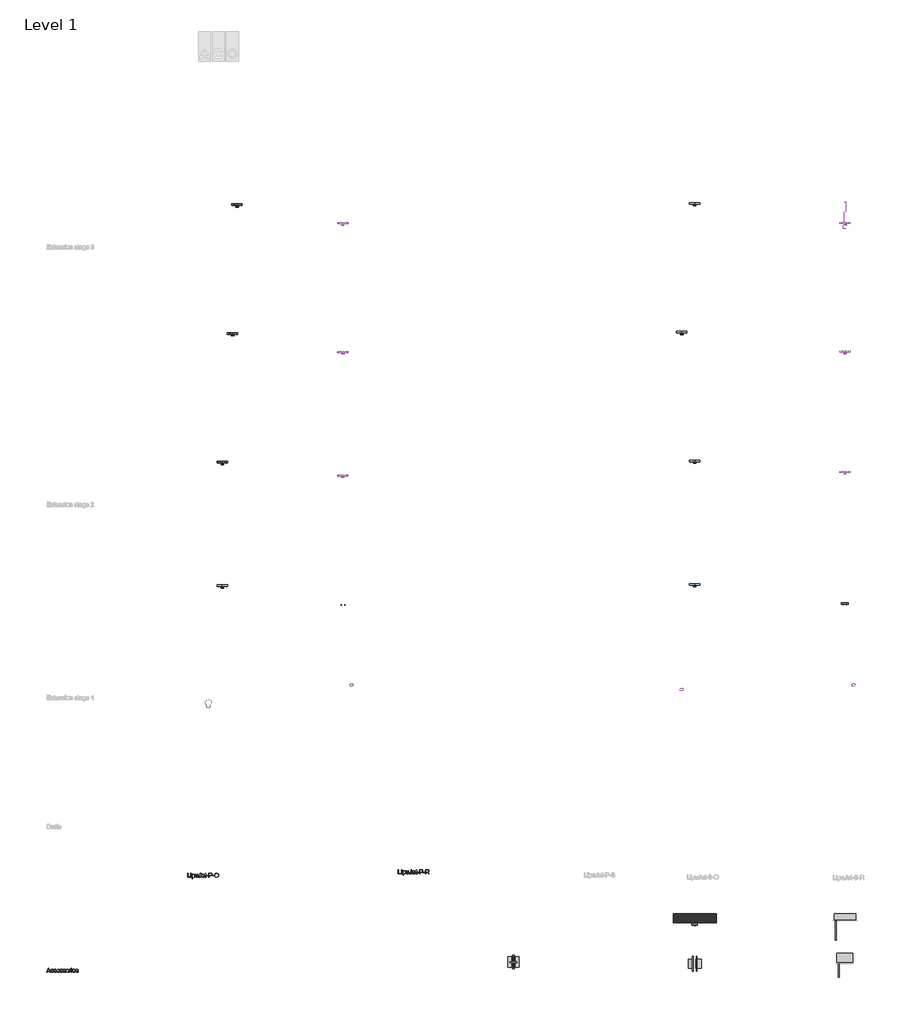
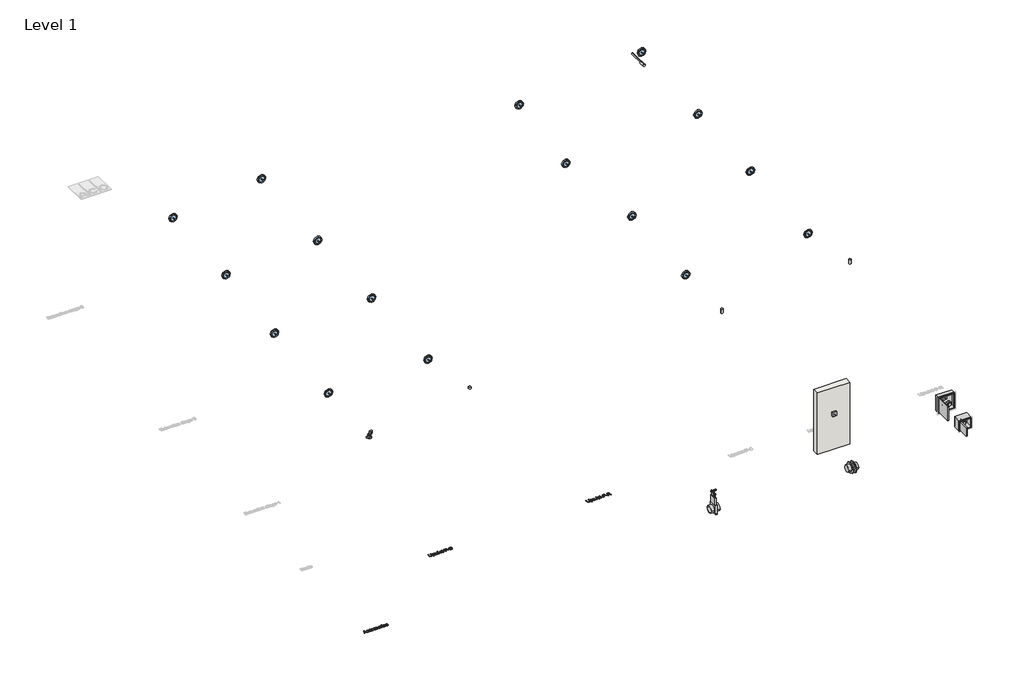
# One storey, part 1 of 3: 16 windows, 5 proxies, 5 unitary equipment elements, 2 furniture elements, 2 pipe fittings, 1 valve, 1 wall.
"""IFC4 building model written with IfcOpenShell, lengths in millimetres."""

from ifc_helpers import new_model, si_unit, origin, origin_with_axes, place, context, project, spatial, polyline, outline, extrude, transform, mapped, element, save
from components import cd_pvc_remote_control_aco_std_7b1f1c58, furniture_370x330x250_330b71c9, furniture_500x500x160_cb3627f5, std_2dac5c2e, ns2_601247f1, ns2_aebbb962, ns4_fcfb2e82, ns4_c199ca5a, std_bcf9d813, dn200_f11250b8, std_43f00bc0

model = new_model("IFC4")

# Units and contexts
model_context = context("Model", 3, world=origin())
ifc_project = project(units=[si_unit("LENGTHUNIT", "METRE", prefix="MILLI")], contexts=[model_context])

# Site, building, storey
site = spatial("IfcSite", under=ifc_project)
building = spatial("IfcBuilding", under=site)
storey = spatial("IfcBuildingStorey", under=building, Name="Level 1", Elevation=0.0)

# Proxies
placement = place(None, origin())
element("IfcBuildingElementProxy", 1, Name="100mm ACO", ObjectType="100mm ACO", at=placement, inside=storey, context=model_context, shape_type="SweptSolid", body=[
    extrude(outline(polyline([(339.2015052, -288.6092273), (276.2385422, -288.6092273), (276.2385422, -188.6092273), (289.2015052, -188.6092273), (289.2015052, -277.4981162), (339.2015052, -277.4981162), (339.2015052, -288.6092273)])), origin_with_axes(), (0.0, 0.0, 1.0), 10.0),
    extrude(outline(polyline([(365.1274311, -201.5721903), (352.1644681, -201.5721903), (352.1644681, -188.6092273), (365.1274311, -188.6092273), (365.1274311, -201.5721903)])), origin_with_axes(), (0.0, 0.0, 1.0), 10.0),
    extrude(outline(polyline([(365.1274311, -288.6092273), (352.1644681, -288.6092273), (352.1644681, -216.3870051), (365.1274311, -216.3870051), (365.1274311, -288.6092273)])), origin_with_axes(), (0.0, 0.0, 1.0), 10.0),
    extrude(outline(polyline([(396.7391209, -225.0964958), (405.1954288, -217.1754889), (416.8635422, -214.5351532), (429.1899311, -217.1248523), (438.6228015, -224.8939495), (444.6123848, -236.8224796), (446.6089126, -251.8904773), (444.3519681, -267.7795109), (437.5811348, -280.0299449), (427.5261579, -287.8532956), (415.4167829, -290.4610792), (405.0435191, -288.3343431), (396.9561348, -281.9541347), (396.6089126, -316.3870051), (383.6459496, -316.3870051), (383.6459496, -216.3870051), (396.6089126, -216.3870051), (396.7391209, -225.0964958)]), holes=[polyline([(413.9989589, -281.2018199), (421.771673, -279.3752863), (428.0759265, -273.8956857), (432.2534438, -264.7991868), (433.6459496, -252.1219588), (432.3040804, -240.0451359), (428.2784728, -231.1294819), (422.162298, -225.6281799), (414.5487274, -223.7944125), (406.6675063, -225.83796), (400.3270839, -231.9686023), (396.1495665, -241.354453), (394.7570607, -253.1636255), (396.0916961, -265.2766174), (400.0956024, -274.0692968), (406.2407123, -279.4186891), (413.9989589, -281.2018199)])]), origin_with_axes(), (0.0, 0.0, 1.0), 10.0),
    extrude(outline(polyline([(520.6829867, -288.6092273), (509.5718755, -288.6092273), (509.5718755, -278.1057551), (499.32882, -287.3722482), (486.365857, -290.4610792), (472.2454867, -286.9454542), (463.5938663, -277.2666347), (461.4237274, -261.2654773), (461.4237274, -216.3870051), (474.3866904, -216.3870051), (474.3866904, -257.3592273), (475.2836811, -271.4506625), (479.9711811, -278.4529773), (488.9989589, -281.2018199), (501.7449079, -276.2828384), (506.2262448, -268.7307551), (507.7200237, -255.9124681), (507.7200237, -216.3870051), (520.6829867, -216.3870051), (520.6829867, -288.6092273)])), origin_with_axes(), (0.0, 0.0, 1.0), 10.0),
    extrude(outline(polyline([(589.2015052, -256.7226532), (587.3279519, -272.4236081), (581.7072922, -282.7787875), (572.7446186, -288.5405063), (560.8450237, -290.4610792), (548.9454288, -288.5983766), (540.4457181, -283.010269), (535.3458917, -273.6822887), (533.6459496, -260.5999681), (546.6089126, -258.9795977), (550.4717598, -274.2573755), (561.5394681, -279.3499681), (571.4787042, -276.1092273), (575.4862274, -268.6294819), (576.2385422, -258.0536718), (576.2385422, -188.6092273), (589.2015052, -188.6092273), (589.2015052, -256.7226532)])), origin_with_axes(), (0.0, 0.0, 1.0), 10.0),
    extrude(outline(polyline([(670.6829867, -255.275894), (616.9792829, -255.275894), (619.0517656, -266.4014727), (623.7645839, -274.5467273), (630.5462679, -279.5380468), (638.8253478, -281.2018199), (650.500695, -277.5125838), (657.7200237, -266.3870051), (670.6829867, -267.8916347), (666.3065399, -277.5125838), (659.3693292, -284.6161718), (650.1245376, -288.9998523), (638.8253478, -290.4610792), (624.2383975, -287.9545688), (613.2321765, -280.4350375), (606.3202841, -268.5752285), (604.01632, -253.0478847), (606.2370954, -237.5096903), (612.8994218, -225.2122366), (623.5982066, -217.2044241), (637.928357, -214.5351532), (653.1482644, -217.9929079), (665.5759265, -229.7695282), (669.4062216, -240.3055526), (670.6829867, -255.275894)]), holes=[polyline([(657.7200237, -246.0166347), (655.6366904, -235.8603847), (650.89132, -229.0027458), (637.61007, -223.7944125), (629.7541672, -225.3424449), (623.4318292, -229.9865421), (616.9792829, -246.0166347), (657.7200237, -246.0166347)])]), origin_with_axes(), (0.0, 0.0, 1.0), 10.0),
    extrude(outline(polyline([(713.2755792, -289.6219588), (704.1899311, -290.4610792), (692.6013894, -287.5820282), (688.1598385, -280.275894), (687.3496533, -267.9495051), (687.3496533, -225.6462644), (678.0903941, -225.6462644), (678.0903941, -216.3870051), (687.3496533, -216.3870051), (687.3496533, -198.0420977), (700.3126163, -190.4610792), (700.3126163, -216.3870051), (711.4237274, -216.3870051), (711.4237274, -225.6462644), (700.3126163, -225.6462644), (700.3126163, -270.5536718), (701.3542829, -278.7712644), (706.6494218, -281.2018199), (711.6841441, -281.2018199), (713.2755792, -289.6219588)])), origin_with_axes(), (0.0, 0.0, 1.0), 10.0),
    extrude(outline(polyline([(757.7200237, -255.275894), (718.8311348, -255.275894), (718.8311348, -246.0166347), (757.7200237, -246.0166347), (757.7200237, -255.275894)])), origin_with_axes(), (0.0, 0.0, 1.0), 10.0),
    extrude(outline(polyline([(772.5348385, -188.6092273), (810.0927089, -188.6092273), (825.3994218, -189.4917505), (837.3207181, -194.0779773), (845.6395839, -204.1329542), (848.4607644, -217.4286718), (846.2363721, -229.8599507), (839.563195, -239.5496208), (827.985504, -245.7887701), (811.04757, -247.8684866), (785.4978015, -247.8684866), (785.4978015, -288.6092273), (772.5348385, -288.6092273), (772.5348385, -188.6092273)]), holes=[polyline([(785.4978015, -236.7573755), (811.5684033, -236.7573755), (829.5154519, -232.0192389), (834.0022141, -226.0965682), (835.4978015, -217.8048292), (832.3872691, -206.8239264), (824.7483802, -200.8922134), (811.2790515, -199.7203384), (785.4978015, -199.7203384), (785.4978015, -236.7573755)])]), origin_with_axes(), (0.0, 0.0, 1.0), 10.0),
    extrude(outline(polyline([(896.6089126, -255.275894), (857.7200237, -255.275894), (857.7200237, -246.0166347), (896.6089126, -246.0166347), (896.6089126, -255.275894)])), origin_with_axes(), (0.0, 0.0, 1.0), 10.0),
    extrude(outline(polyline([(954.1031255, -186.7573755), (972.5927089, -190.3308708), (987.3785885, -201.0513569), (997.0791093, -217.6239843), (1000.3126163, -238.7539032), (997.0610248, -259.7933998), (987.3062505, -276.2683708), (972.5022864, -286.9129021), (954.1031255, -290.4610792), (935.230151, -286.7826938), (920.4515052, -275.7475375), (910.9028941, -259.4172424), (907.7200237, -239.8534403), (910.9462968, -217.7722771), (920.6251163, -200.9500838), (935.4471649, -190.3055526), (954.1031255, -186.7573755)]), holes=[polyline([(953.9873848, -279.3499681), (967.4277783, -276.6662296), (978.0614589, -268.6150144), (984.9986695, -255.7822597), (987.3496533, -238.7539032), (984.9950526, -221.3457725), (977.9312505, -208.4732319), (967.3011869, -200.5196729), (954.2478015, -197.8684866), (940.9014473, -200.4654194), (930.1447922, -208.2562181), (923.048438, -221.4144935), (920.6829867, -240.1138569), (922.9978015, -255.9956567), (929.9422459, -268.5137412), (940.5831603, -276.6409113), (953.9873848, -279.3499681)])]), origin_with_axes(), (0.0, 0.0, 1.0), 10.0),
])
element("IfcBuildingElementProxy", 2, Name="100mm ACO", ObjectType="100mm ACO", at=placement, inside=storey, context=model_context, shape_type="SweptSolid", body=[
    extrude(outline(polyline([(5251.0078452, -208.6092273), (5188.0448823, -208.6092273), (5188.0448823, -108.6092273), (5201.0078452, -108.6092273), (5201.0078452, -197.4981162), (5251.0078452, -197.4981162), (5251.0078452, -208.6092273)])), origin_with_axes(), (0.0, 0.0, 1.0), 10.0),
    extrude(outline(polyline([(5276.9337712, -121.5721903), (5263.9708082, -121.5721903), (5263.9708082, -108.6092273), (5276.9337712, -108.6092273), (5276.9337712, -121.5721903)])), origin_with_axes(), (0.0, 0.0, 1.0), 10.0),
    extrude(outline(polyline([(5276.9337712, -208.6092273), (5263.9708082, -208.6092273), (5263.9708082, -136.3870051), (5276.9337712, -136.3870051), (5276.9337712, -208.6092273)])), origin_with_axes(), (0.0, 0.0, 1.0), 10.0),
    extrude(outline(polyline([(5308.545461, -145.0964958), (5317.0017689, -137.1754889), (5328.6698823, -134.5351532), (5340.9962712, -137.1248523), (5350.4291415, -144.8939495), (5356.4187249, -156.8224796), (5358.4152527, -171.8904773), (5356.1583082, -187.7795109), (5349.3874749, -200.0299449), (5339.332498, -207.8532956), (5327.223123, -210.4610792), (5316.8498591, -208.3343431), (5308.7624749, -201.9541347), (5308.4152527, -236.3870051), (5295.4522897, -236.3870051), (5295.4522897, -136.3870051), (5308.4152527, -136.3870051), (5308.545461, -145.0964958)]), holes=[polyline([(5325.805299, -201.2018199), (5333.5780131, -199.3752863), (5339.8822665, -193.8956857), (5344.0597839, -184.7991868), (5345.4522897, -172.1219588), (5344.1104205, -160.0451359), (5340.0848128, -151.1294819), (5333.9686381, -145.6281799), (5326.3550675, -143.7944125), (5318.4738464, -145.83796), (5312.133424, -151.9686023), (5307.9559066, -161.354453), (5306.5634008, -173.1636255), (5307.8980362, -185.2766174), (5311.9019425, -194.0692968), (5318.0470524, -199.4186891), (5325.805299, -201.2018199)])]), origin_with_axes(), (0.0, 0.0, 1.0), 10.0),
    extrude(outline(polyline([(5432.4893267, -208.6092273), (5421.3782156, -208.6092273), (5421.3782156, -198.1057551), (5411.1351601, -207.3722482), (5398.1721971, -210.4610792), (5384.0518267, -206.9454542), (5375.4002064, -197.2666347), (5373.2300675, -181.2654773), (5373.2300675, -136.3870051), (5386.1930304, -136.3870051), (5386.1930304, -177.3592273), (5387.0900212, -191.4506625), (5391.7775212, -198.4529773), (5400.805299, -201.2018199), (5413.551248, -196.2828384), (5418.0325848, -188.7307551), (5419.5263638, -175.9124681), (5419.5263638, -136.3870051), (5432.4893267, -136.3870051), (5432.4893267, -208.6092273)])), origin_with_axes(), (0.0, 0.0, 1.0), 10.0),
    extrude(outline(polyline([(5501.0078452, -176.7226532), (5499.134292, -192.4236081), (5493.5136323, -202.7787875), (5484.5509587, -208.5405063), (5472.6513638, -210.4610792), (5460.7517689, -208.5983766), (5452.2520582, -203.010269), (5447.1522318, -193.6822887), (5445.4522897, -180.5999681), (5458.4152527, -178.9795977), (5462.2780999, -194.2573755), (5473.3458082, -199.3499681), (5483.2850443, -196.1092273), (5487.2925675, -188.6294819), (5488.0448823, -178.0536718), (5488.0448823, -108.6092273), (5501.0078452, -108.6092273), (5501.0078452, -176.7226532)])), origin_with_axes(), (0.0, 0.0, 1.0), 10.0),
    extrude(outline(polyline([(5582.4893267, -175.275894), (5528.785623, -175.275894), (5530.8581057, -186.4014727), (5535.570924, -194.5467273), (5542.352608, -199.5380468), (5550.6316878, -201.2018199), (5562.3070351, -197.5125838), (5569.5263638, -186.3870051), (5582.4893267, -187.8916347), (5578.11288, -197.5125838), (5571.1756693, -204.6161718), (5561.9308777, -208.9998523), (5550.6316878, -210.4610792), (5536.0447376, -207.9545688), (5525.0385165, -200.4350375), (5518.1266242, -188.5752285), (5515.8226601, -173.0478847), (5518.0434355, -157.5096903), (5524.7057619, -145.2122366), (5535.4045466, -137.2044241), (5549.7346971, -134.5351532), (5564.9546045, -137.9929079), (5577.3822665, -149.7695282), (5581.2125617, -160.3055526), (5582.4893267, -175.275894)]), holes=[polyline([(5569.5263638, -166.0166347), (5567.4430304, -155.8603847), (5562.6976601, -149.0027458), (5549.4164101, -143.7944125), (5541.5605073, -145.3424449), (5535.2381693, -149.9865421), (5528.785623, -166.0166347), (5569.5263638, -166.0166347)])]), origin_with_axes(), (0.0, 0.0, 1.0), 10.0),
    extrude(outline(polyline([(5625.0819193, -209.6219588), (5615.9962712, -210.4610792), (5604.4077295, -207.5820282), (5599.9661786, -200.275894), (5599.1559934, -187.9495051), (5599.1559934, -145.6462644), (5589.8967341, -145.6462644), (5589.8967341, -136.3870051), (5599.1559934, -136.3870051), (5599.1559934, -118.0420977), (5612.1189564, -110.4610792), (5612.1189564, -136.3870051), (5623.2300675, -136.3870051), (5623.2300675, -145.6462644), (5612.1189564, -145.6462644), (5612.1189564, -190.5536718), (5613.160623, -198.7712644), (5618.4557619, -201.2018199), (5623.4904841, -201.2018199), (5625.0819193, -209.6219588)])), origin_with_axes(), (0.0, 0.0, 1.0), 10.0),
    extrude(outline(polyline([(5669.5263638, -175.275894), (5630.6374749, -175.275894), (5630.6374749, -166.0166347), (5669.5263638, -166.0166347), (5669.5263638, -175.275894)])), origin_with_axes(), (0.0, 0.0, 1.0), 10.0),
    extrude(outline(polyline([(5684.3411786, -108.6092273), (5721.899049, -108.6092273), (5737.2057619, -109.4917505), (5749.1270582, -114.0779773), (5757.445924, -124.1329542), (5760.2671045, -137.4286718), (5758.0427121, -149.8599507), (5751.3695351, -159.5496208), (5739.7918441, -165.7887701), (5722.8539101, -167.8684866), (5697.3041415, -167.8684866), (5697.3041415, -208.6092273), (5684.3411786, -208.6092273), (5684.3411786, -108.6092273)]), holes=[polyline([(5697.3041415, -156.7573755), (5723.3747434, -156.7573755), (5741.321792, -152.0192389), (5745.8085542, -146.0965682), (5747.3041415, -137.8048292), (5744.1936091, -126.8239264), (5736.5547202, -120.8922134), (5723.0853915, -119.7203384), (5697.3041415, -119.7203384), (5697.3041415, -156.7573755)])]), origin_with_axes(), (0.0, 0.0, 1.0), 10.0),
    extrude(outline(polyline([(5808.4152527, -175.275894), (5769.5263638, -175.275894), (5769.5263638, -166.0166347), (5808.4152527, -166.0166347), (5808.4152527, -175.275894)])), origin_with_axes(), (0.0, 0.0, 1.0), 10.0),
    extrude(outline(polyline([(5910.7300675, -208.6092273), (5895.7416415, -208.6092273), (5876.977174, -178.7481162), (5869.2080767, -169.6190653), (5861.4823823, -165.1051764), (5851.904836, -164.1647829), (5836.1930304, -164.1647829), (5836.1930304, -208.6092273), (5823.2300675, -208.6092273), (5823.2300675, -108.6092273), (5867.3562249, -108.6092273), (5882.5327295, -109.7521671), (5893.2676832, -114.5554079), (5900.3712712, -123.7857319), (5902.8596971, -135.5189495), (5901.0440142, -145.5703095), (5895.5969656, -153.4442968), (5886.7283314, -158.9890016), (5874.6478915, -162.0525144), (5884.3050096, -169.5394935), (5893.3689564, -181.2076069), (5910.7300675, -208.6092273)]), holes=[polyline([(5836.1930304, -153.0536718), (5864.9546045, -153.0536718), (5878.7422202, -151.5779773), (5886.8585397, -145.8343431), (5889.8967341, -136.2423292), (5884.8475443, -124.5380468), (5878.1598996, -120.9247655), (5868.1953452, -119.7203384), (5836.1930304, -119.7203384), (5836.1930304, -153.0536718)])]), origin_with_axes(), (0.0, 0.0, 1.0), 10.0),
])
element("IfcBuildingElementProxy", 3, Name="100mm ACO", ObjectType="100mm ACO", at=placement, inside=storey, context=model_context, shape_type="SweptSolid", body=[
    extrude(outline(polyline([(-2915.72885, -2500.0), (-2929.5309333, -2500.0), (-2941.5101, -2470.3703704), (-2983.9580167, -2470.3703704), (-2995.4742204, -2500.0), (-3009.2473685, -2500.0), (-2970.3874148, -2400.0), (-2956.2091741, -2400.0), (-2915.72885, -2500.0)]), holes=[polyline([(-2946.0239889, -2459.2592593), (-2960.4481787, -2422.5983796), (-2963.4140352, -2410.9375), (-2968.0726, -2429.5138889), (-2979.6177389, -2459.2592593), (-2946.0239889, -2459.2592593)])]), origin_with_axes(), (0.0, 0.0, 1.0), 10.0),
    extrude(outline(polyline([(-2845.8214426, -2475.5497685), (-2849.8506671, -2487.3553241), (-2857.0193593, -2495.5150463), (-2866.3437227, -2500.2676505), (-2876.8399611, -2501.8518519), (-2891.155644, -2499.2621528), (-2901.8110259, -2491.4930556), (-2908.4299495, -2479.4487847), (-2910.6362574, -2464.0335648), (-2905.6015352, -2441.3483796), (-2893.000262, -2429.3836806), (-2877.1003778, -2425.9259259), (-2857.6414657, -2431.5827546), (-2851.1057308, -2438.566985), (-2847.6732944, -2448.2060185), (-2860.6362574, -2450.0), (-2866.5390352, -2438.9033565), (-2876.9557019, -2435.1851852), (-2885.9111417, -2437.0695891), (-2892.4070907, -2442.7228009), (-2896.3567435, -2451.7541956), (-2897.6732944, -2463.7731481), (-2896.3531266, -2476.0018808), (-2892.3926231, -2485.083912), (-2885.9436937, -2490.7154225), (-2877.1582481, -2492.5925926), (-2864.556975, -2487.962963), (-2858.7844056, -2474.0740741), (-2845.8214426, -2475.5497685)])), origin_with_axes(), (0.0, 0.0, 1.0), 10.0),
    extrude(outline(polyline([(-2777.3029241, -2475.5497685), (-2781.3321486, -2487.3553241), (-2788.5008407, -2495.5150463), (-2797.8252042, -2500.2676505), (-2808.3214426, -2501.8518519), (-2822.6371255, -2499.2621528), (-2833.2925074, -2491.4930556), (-2839.911431, -2479.4487847), (-2842.1177389, -2464.0335648), (-2837.0830167, -2441.3483796), (-2824.4817435, -2429.3836806), (-2808.5818593, -2425.9259259), (-2789.1229472, -2431.5827546), (-2782.5872123, -2438.566985), (-2779.1547759, -2448.2060185), (-2792.1177389, -2450.0), (-2798.0205167, -2438.9033565), (-2808.4371833, -2435.1851852), (-2817.3926231, -2437.0695891), (-2823.8885722, -2442.7228009), (-2827.838225, -2451.7541956), (-2829.1547759, -2463.7731481), (-2827.8346081, -2476.0018808), (-2823.8741046, -2485.083912), (-2817.4251752, -2490.7154225), (-2808.6397296, -2492.5925926), (-2796.0384565, -2487.962963), (-2790.265887, -2474.0740741), (-2777.3029241, -2475.5497685)])), origin_with_axes(), (0.0, 0.0, 1.0), 10.0),
    extrude(outline(polyline([(-2706.9325537, -2466.6666667), (-2760.6362574, -2466.6666667), (-2758.5637748, -2477.7922454), (-2753.8509565, -2485.9375), (-2747.0692725, -2490.9288194), (-2738.7901926, -2492.5925926), (-2727.1148454, -2488.9033565), (-2719.8955167, -2477.7777778), (-2706.9325537, -2479.2824074), (-2711.3090005, -2488.9033565), (-2718.2462111, -2496.0069444), (-2727.4910028, -2500.390625), (-2738.7901926, -2501.8518519), (-2753.3771428, -2499.3453414), (-2764.3833639, -2491.8258102), (-2771.2952562, -2479.9660012), (-2773.5992204, -2464.4386574), (-2771.3784449, -2448.900463), (-2764.7161185, -2436.6030093), (-2754.0173338, -2428.5951968), (-2739.6871833, -2425.9259259), (-2724.4672759, -2429.3836806), (-2712.0396139, -2441.1603009), (-2708.2093187, -2451.6963252), (-2706.9325537, -2466.6666667)]), holes=[polyline([(-2719.8955167, -2457.4074074), (-2721.97885, -2447.2511574), (-2726.7242204, -2440.3935185), (-2740.0054704, -2435.1851852), (-2747.8613731, -2436.7332176), (-2754.1837111, -2441.3773148), (-2760.6362574, -2457.4074074), (-2719.8955167, -2457.4074074)])]), origin_with_axes(), (0.0, 0.0, 1.0), 10.0),
    extrude(outline(polyline([(-2651.3769981, -2448.1481481), (-2656.1657713, -2438.4259259), (-2667.2334796, -2435.1851852), (-2678.547137, -2437.962963), (-2682.8584796, -2446.0358796), (-2680.0083639, -2453.1828704), (-2666.5679704, -2457.0601852), (-2648.8451694, -2461.2268519), (-2639.8029241, -2467.5491898), (-2636.5621833, -2478.8773148), (-2638.5731787, -2487.8074363), (-2644.6061648, -2495.2112269), (-2654.0028662, -2500.1916956), (-2666.1050074, -2501.8518519), (-2678.5796891, -2500.4557292), (-2687.994475, -2496.2673611), (-2694.3565988, -2489.2939815), (-2697.6732944, -2479.5428241), (-2684.7103315, -2477.7777778), (-2679.1113731, -2488.9033565), (-2666.1050074, -2492.5925926), (-2653.8075537, -2488.7586806), (-2649.5251463, -2479.4270833), (-2651.4493361, -2473.4519676), (-2656.2525769, -2470.0810185), (-2669.8376463, -2467.1875), (-2690.7722528, -2459.375), (-2695.8214426, -2446.7881944), (-2693.9515062, -2438.5018808), (-2688.3416972, -2431.8142361), (-2679.5707192, -2427.3980035), (-2668.2172759, -2425.9259259), (-2656.2851289, -2427.2135417), (-2647.3405398, -2431.0763889), (-2641.3835086, -2437.5072338), (-2638.4140352, -2446.4988426), (-2651.3769981, -2448.1481481)])), origin_with_axes(), (0.0, 0.0, 1.0), 10.0),
    extrude(outline(polyline([(-2582.8584796, -2448.1481481), (-2587.6472528, -2438.4259259), (-2598.7149611, -2435.1851852), (-2610.0286185, -2437.962963), (-2614.3399611, -2446.0358796), (-2611.4898454, -2453.1828704), (-2598.0494519, -2457.0601852), (-2580.3266509, -2461.2268519), (-2571.2844056, -2467.5491898), (-2568.0436648, -2478.8773148), (-2570.0546602, -2487.8074363), (-2576.0876463, -2495.2112269), (-2585.4843477, -2500.1916956), (-2597.5864889, -2501.8518519), (-2610.0611706, -2500.4557292), (-2619.4759565, -2496.2673611), (-2625.8380803, -2489.2939815), (-2629.1547759, -2479.5428241), (-2616.191813, -2477.7777778), (-2610.5928546, -2488.9033565), (-2597.5864889, -2492.5925926), (-2585.2890352, -2488.7586806), (-2581.0066278, -2479.4270833), (-2582.9308176, -2473.4519676), (-2587.7340583, -2470.0810185), (-2601.3191278, -2467.1875), (-2622.2537343, -2459.375), (-2627.3029241, -2446.7881944), (-2625.4329877, -2438.5018808), (-2619.8231787, -2431.8142361), (-2611.0522007, -2427.3980035), (-2599.6987574, -2425.9259259), (-2587.7666104, -2427.2135417), (-2578.8220213, -2431.0763889), (-2572.86499, -2437.5072338), (-2569.8955167, -2446.4988426), (-2582.8584796, -2448.1481481)])), origin_with_axes(), (0.0, 0.0, 1.0), 10.0),
    extrude(outline(polyline([(-2525.4800074, -2425.9259259), (-2512.3036475, -2428.3203125), (-2501.594012, -2435.5034722), (-2494.4868072, -2447.0992477), (-2492.1177389, -2462.7314815), (-2494.6821197, -2481.0040509), (-2502.375262, -2492.9976852), (-2513.28021, -2499.6383102), (-2525.4800074, -2501.8518519), (-2538.0704299, -2499.5768229), (-2548.8741046, -2492.7517361), (-2556.3068303, -2480.9859664), (-2558.7844056, -2463.8888889), (-2556.390019, -2447.1715856), (-2549.2068593, -2435.3298611), (-2538.4863731, -2428.2769097), (-2525.4800074, -2425.9259259)]), holes=[polyline([(-2525.4800074, -2492.5925926), (-2516.6728604, -2490.5852141), (-2510.2745676, -2484.5630787), (-2505.0807019, -2463.4259259), (-2506.5491625, -2451.1429398), (-2510.9545444, -2442.3032407), (-2517.5228315, -2436.9646991), (-2525.4800074, -2435.1851852), (-2533.59271, -2436.9900174), (-2540.1067435, -2442.4045139), (-2544.3927678, -2451.3925058), (-2545.8214426, -2463.9178241), (-2544.3674495, -2476.3997396), (-2540.0054704, -2485.3732639), (-2533.4661185, -2490.7877604), (-2525.4800074, -2492.5925926)])]), origin_with_axes(), (0.0, 0.0, 1.0), 10.0),
    extrude(outline(polyline([(-2438.4140352, -2428.7615741), (-2442.4649611, -2437.037037), (-2450.9719056, -2435.1851852), (-2456.7661764, -2436.8127894), (-2460.9545444, -2441.6956019), (-2464.3399611, -2459.9247685), (-2464.3399611, -2500.0), (-2477.3029241, -2500.0), (-2477.3029241, -2427.7777778), (-2466.191813, -2427.7777778), (-2466.191813, -2438.4837963), (-2459.2618361, -2429.0653935), (-2450.8272296, -2425.9259259), (-2438.4140352, -2428.7615741)])), origin_with_axes(), (0.0, 0.0, 1.0), 10.0),
    extrude(outline(polyline([(-2418.0436648, -2500.0), (-2431.0066278, -2500.0), (-2431.0066278, -2427.7777778), (-2418.0436648, -2427.7777778), (-2418.0436648, -2500.0)])), origin_with_axes(), (0.0, 0.0, 1.0), 10.0),
    extrude(outline(polyline([(-2418.0436648, -2412.962963), (-2431.0066278, -2412.962963), (-2431.0066278, -2400.0), (-2418.0436648, -2400.0), (-2418.0436648, -2412.962963)])), origin_with_axes(), (0.0, 0.0, 1.0), 10.0),
    extrude(outline(polyline([(-2336.5621833, -2466.6666667), (-2390.265887, -2466.6666667), (-2388.1934044, -2477.7922454), (-2383.4805861, -2485.9375), (-2376.6989021, -2490.9288194), (-2368.4198222, -2492.5925926), (-2356.744475, -2488.9033565), (-2349.5251463, -2477.7777778), (-2336.5621833, -2479.2824074), (-2340.9386301, -2488.9033565), (-2347.8758407, -2496.0069444), (-2357.1206324, -2500.390625), (-2368.4198222, -2501.8518519), (-2383.0067725, -2499.3453414), (-2394.0129935, -2491.8258102), (-2400.9248859, -2479.9660012), (-2403.22885, -2464.4386574), (-2401.0080745, -2448.900463), (-2394.3457481, -2436.6030093), (-2383.6469634, -2428.5951968), (-2369.316813, -2425.9259259), (-2354.0969056, -2429.3836806), (-2341.6692435, -2441.1603009), (-2337.8389484, -2451.6963252), (-2336.5621833, -2466.6666667)]), holes=[polyline([(-2349.5251463, -2457.4074074), (-2351.6084796, -2447.2511574), (-2356.35385, -2440.3935185), (-2369.6351, -2435.1851852), (-2377.4910028, -2436.7332176), (-2383.8133407, -2441.3773148), (-2390.265887, -2457.4074074), (-2349.5251463, -2457.4074074)])]), origin_with_axes(), (0.0, 0.0, 1.0), 10.0),
    extrude(outline(polyline([(-2281.0066278, -2448.1481481), (-2285.7954009, -2438.4259259), (-2296.8631093, -2435.1851852), (-2308.1767667, -2437.962963), (-2312.4881093, -2446.0358796), (-2309.6379935, -2453.1828704), (-2296.1976, -2457.0601852), (-2278.4747991, -2461.2268519), (-2269.4325537, -2467.5491898), (-2266.191813, -2478.8773148), (-2268.2028083, -2487.8074363), (-2274.2357944, -2495.2112269), (-2283.6324958, -2500.1916956), (-2295.734637, -2501.8518519), (-2308.2093187, -2500.4557292), (-2317.6241046, -2496.2673611), (-2323.9862285, -2489.2939815), (-2327.3029241, -2479.5428241), (-2314.3399611, -2477.7777778), (-2308.7410028, -2488.9033565), (-2295.734637, -2492.5925926), (-2283.4371833, -2488.7586806), (-2279.1547759, -2479.4270833), (-2281.0789657, -2473.4519676), (-2285.8822065, -2470.0810185), (-2299.4672759, -2467.1875), (-2320.4018824, -2459.375), (-2325.4510722, -2446.7881944), (-2323.5811359, -2438.5018808), (-2317.9713269, -2431.8142361), (-2309.2003488, -2427.3980035), (-2297.8469056, -2425.9259259), (-2285.9147586, -2427.2135417), (-2276.9701694, -2431.0763889), (-2271.0131382, -2437.5072338), (-2268.0436648, -2446.4988426), (-2281.0066278, -2448.1481481)])), origin_with_axes(), (0.0, 0.0, 1.0), 10.0),
])
cd_pvc_remote_control_aco_std_shape = cd_pvc_remote_control_aco_std_7b1f1c58(model_context)
element("IfcBuildingElementProxy", 4, Name="CD_PVC_remote control_ACO : std", ObjectType="CD_PVC_remote control_ACO : std", at=placement, inside=storey, context=model_context, shape_type="MappedRepresentation", body=[
    mapped(cd_pvc_remote_control_aco_std_shape, transform((12100.0, -1340.0, 1171.0072803), x_axis=(1.0, 0.0, 0.0), y_axis=(0.0, 0.0, 1.0), z_axis=(0.0, -1.0, 0.0))),
])
element("IfcBuildingElementProxy", 5, Name="ZZZ_do not use_CD_PVC_remote control_ACO : std", ObjectType="ZZZ_do not use_CD_PVC_remote control_ACO : std", at=placement, inside=storey, context=model_context, shape_type="MappedRepresentation", body=[
    mapped(cd_pvc_remote_control_aco_std_shape, transform((15600.0, -1142.0, 362.5), x_axis=(1.0, 0.0, 0.0), y_axis=(0.0, 0.0, 1.0), z_axis=(0.0, -1.0, 0.0))),
])

# Furniture
furniture_370x330x250_shape = furniture_370x330x250_330b71c9(model_context)
element("IfcFurniture", 6, ObjectType="ME_ST_UN_connection box single connection_ACO : 370x330x250", at=placement, inside=storey, context=model_context, shape_type="MappedRepresentation", body=[
    mapped(furniture_370x330x250_shape, transform((15600.0, -2300.0, 0.0), x_axis=(1.0, 0.0, 0.0), y_axis=(0.0, 1.0, 0.0), z_axis=(0.0, 0.0, 1.0))),
])
furniture_500x500x160_shape = furniture_500x500x160_cb3627f5(model_context)
element("IfcFurniture", 7, ObjectType="ME_ST_UN_connection box double connection_ACO : 500x500x160", at=placement, inside=storey, context=model_context, shape_type="MappedRepresentation", body=[
    mapped(furniture_500x500x160_shape, transform((15600.0, -1300.0, 0.0), x_axis=(1.0, 0.0, 0.0), y_axis=(0.0, 1.0, 0.0), z_axis=(0.0, 0.0, 1.0))),
])

# Pipe fittings
std_shape = std_2dac5c2e(model_context)
element("IfcPipeFitting", 8, ObjectType="ZZZ_do not use_PIF_ST_UN_flange_ACO : std", at=placement, inside=storey, context=model_context, shape_type="MappedRepresentation", body=[
    mapped(std_shape, transform((12130.0, -2300.0, 0.0), x_axis=(1.0, 0.0, 0.0), y_axis=(0.0, 1.0, 0.0), z_axis=(0.0, 0.0, 1.0))),
])
element("IfcPipeFitting", 9, ObjectType="ZZZ_do not use_PIF_ST_UN_flange_ACO : std", at=placement, inside=storey, context=model_context, shape_type="MappedRepresentation", body=[
    mapped(std_shape, transform((12070.0, -2300.0, 0.0), x_axis=(-1.0, 0.0, 0.0), y_axis=(0.0, -1.0, 0.0), z_axis=(0.0, 0.0, 1.0))),
])

# Unitary equipment
ns2_shape = ns2_601247f1(model_context)
element("IfcUnitaryEquipment", 10, ObjectType="ME_ST_UN_LipuJet-S-OD extension stage 1_ACO : NS2", at=placement, inside=storey, context=model_context, shape_type="MappedRepresentation", body=[
    mapped(ns2_shape, transform((12100.0, 3850.0, 0.0), x_axis=(1.0, 0.0, 0.0), y_axis=(0.0, 1.0, 0.0), z_axis=(0.0, 0.0, 1.0))),
])
ns2_2_shape = ns2_aebbb962(model_context)
element("IfcUnitaryEquipment", 11, ObjectType="ME_PE_UN_LipuJet-P-OD extension stage 1_ACO : NS2", at=placement, inside=storey, context=model_context, shape_type="MappedRepresentation", body=[
    mapped(ns2_2_shape, transform((600.0, 3850.0, 0.0), x_axis=(1.0, 0.0, 0.0), y_axis=(0.0, 1.0, 0.0), z_axis=(0.0, 0.0, 1.0))),
])
ns4_shape = ns4_fcfb2e82(model_context)
element("IfcUnitaryEquipment", 12, ObjectType="ME_ST_UN_LipuJet-S-RD extension stage 1_ACO : NS4", at=placement, inside=storey, context=model_context, shape_type="MappedRepresentation", body=[
    mapped(ns4_shape, transform((15600.0, 3850.0, 0.0), x_axis=(1.0, 0.0, 0.0), y_axis=(0.0, 1.0, 0.0), z_axis=(0.0, 0.0, 1.0))),
])
ns4_2_shape = ns4_c199ca5a(model_context)
element("IfcUnitaryEquipment", 13, ObjectType="ME_PE_UN_LipuJet-P-RD extension stage 1_ACO : NS4", at=placement, inside=storey, context=model_context, shape_type="MappedRepresentation", body=[
    mapped(ns4_2_shape, transform((3900.0, 3850.0, 0.0), x_axis=(1.0, 0.0, 0.0), y_axis=(0.0, 1.0, 0.0), z_axis=(0.0, 0.0, 1.0))),
])
std_2_shape = std_bcf9d813(model_context)
element("IfcUnitaryEquipment", 14, ObjectType="ZZZ_do not use_ME_ST_WPB_heating rod_ACO : std", at=placement, inside=storey, context=model_context, shape_type="MappedRepresentation", body=[
    mapped(std_2_shape, transform((15600.0, 14950.0, 1473.0), x_axis=(0.0, 0.0, 1.0), y_axis=(-1.0, 0.0, 0.0), z_axis=(0.0, -1.0, 0.0))),
])

# Valve
dn200_shape = dn200_f11250b8(model_context)
element("IfcValve", 15, ObjectType="PIA_PE_UN_valve gate_ACO : DN200", at=placement, inside=storey, context=model_context, shape_type="MappedRepresentation", body=[
    mapped(dn200_shape, transform((7876.0, -2260.0, 0.0), x_axis=(0.0, 1.0, 0.0), y_axis=(-1.0, 0.0, 0.0), z_axis=(0.0, 0.0, 1.0))),
])

# Wall
element("IfcWall", 16, ObjectType="Wall 1", at=placement, inside=storey, context=model_context, shape_type="SweptSolid", body=[
    extrude(outline(polyline([(12600.0, -1340.0), (11600.0, -1340.0), (11600.0, -1140.0), (12600.0, -1140.0), (12600.0, -1340.0)])), origin_with_axes(), (0.0, 0.0, 1.0), 2000.0),
])

# Windows
std_3_shape = std_43f00bc0(model_context)
element("IfcWindow", 17, ObjectType="ZZZ_do not use_ME_PE_WPB_viewing window LipuJet-P_ACO : std", at=placement, inside=storey, context=model_context, shape_type="MappedRepresentation", body=[
    mapped(std_3_shape, transform((3900.0, 11942.5, 1606.5), x_axis=(0.0, 0.0, 1.0), y_axis=(-1.0, 0.0, 0.0), z_axis=(0.0, -1.0, 0.0))),
])
element("IfcWindow", 18, ObjectType="ZZZ_do not use_ME_PE_WPB_viewing window LipuJet-P_ACO : std", at=placement, inside=storey, context=model_context, shape_type="MappedRepresentation", body=[
    mapped(std_3_shape, transform((3900.0, 14942.5, 1796.5), x_axis=(0.0, 0.0, 1.0), y_axis=(-1.0, 0.0, 0.0), z_axis=(0.0, -1.0, 0.0))),
])
element("IfcWindow", 19, ObjectType="ZZZ_do not use_ME_PE_WPB_viewing window LipuJet-P_ACO : std", at=placement, inside=storey, context=model_context, shape_type="MappedRepresentation", body=[
    mapped(std_3_shape, transform((3900.0, 6070.0, 1302.0), x_axis=(0.0, 0.0, 1.0), y_axis=(-1.0, 0.0, 0.0), z_axis=(0.0, -1.0, 0.0))),
])
element("IfcWindow", 20, ObjectType="ZZZ_do not use_ME_PE_WPB_viewing window LipuJet-P_ACO : std", at=placement, inside=storey, context=model_context, shape_type="MappedRepresentation", body=[
    mapped(std_3_shape, transform((3900.0, 9070.0, 1472.0), x_axis=(0.0, 0.0, 1.0), y_axis=(-1.0, 0.0, 0.0), z_axis=(0.0, -1.0, 0.0))),
])
element("IfcWindow", 21, ObjectType="ZZZ_do not use_ME_PE_WPB_viewing window LipuJet-P_ACO : std", at=placement, inside=storey, context=model_context, shape_type="MappedRepresentation", body=[
    mapped(std_3_shape, transform((1327.5, 12375.0, 1130.5), x_axis=(0.0, 0.0, 1.0), y_axis=(-1.0, 0.0, 0.0), z_axis=(0.0, -1.0, 0.0))),
])
element("IfcWindow", 22, ObjectType="ZZZ_do not use_ME_PE_WPB_viewing window LipuJet-P_ACO : std", at=placement, inside=storey, context=model_context, shape_type="MappedRepresentation", body=[
    mapped(std_3_shape, transform((1432.5, 15375.0, 1130.5), x_axis=(0.0, 0.0, 1.0), y_axis=(-1.0, 0.0, 0.0), z_axis=(0.0, -1.0, 0.0))),
])
element("IfcWindow", 23, ObjectType="ZZZ_do not use_ME_PE_WPB_viewing window LipuJet-P_ACO : std", at=placement, inside=storey, context=model_context, shape_type="MappedRepresentation", body=[
    mapped(std_3_shape, transform((1087.5, 6500.0, 930.5), x_axis=(0.0, 0.0, 1.0), y_axis=(-1.0, 0.0, 0.0), z_axis=(0.0, -1.0, 0.0))),
])
element("IfcWindow", 24, ObjectType="ZZZ_do not use_ME_PE_WPB_viewing window LipuJet-P_ACO : std", at=placement, inside=storey, context=model_context, shape_type="MappedRepresentation", body=[
    mapped(std_3_shape, transform((1087.5, 9375.0, 1130.5), x_axis=(0.0, 0.0, 1.0), y_axis=(-1.0, 0.0, 0.0), z_axis=(0.0, -1.0, 0.0))),
])
element("IfcWindow", 25, ObjectType="ZZZ_do not use_ME_PE_WPB_viewing window LipuJet-S_ACO : std", at=placement, inside=storey, context=model_context, shape_type="MappedRepresentation", body=[
    mapped(std_3_shape, transform((12099.5, 6532.5, 899.5), x_axis=(0.0, 0.0, 1.0), y_axis=(-1.0, 0.0, 0.0), z_axis=(0.0, -1.0, 0.0))),
])
element("IfcWindow", 26, ObjectType="ZZZ_do not use_ME_PE_WPB_viewing window LipuJet-S_ACO : std", at=placement, inside=storey, context=model_context, shape_type="MappedRepresentation", body=[
    mapped(std_3_shape, transform((12099.5, 9407.5, 1069.5), x_axis=(0.0, 0.0, 1.0), y_axis=(-1.0, 0.0, 0.0), z_axis=(0.0, -1.0, 0.0))),
])
element("IfcWindow", 27, ObjectType="ZZZ_do not use_ME_PE_WPB_viewing window LipuJet-S_ACO : std", at=placement, inside=storey, context=model_context, shape_type="MappedRepresentation", body=[
    mapped(std_3_shape, transform((15600.0, 11953.5, 1617.8), x_axis=(0.0, 0.0, 1.0), y_axis=(-1.0, 0.0, 0.0), z_axis=(0.0, -1.0, 0.0))),
])
element("IfcWindow", 28, ObjectType="ZZZ_do not use_ME_PE_WPB_viewing window LipuJet-S_ACO : std", at=placement, inside=storey, context=model_context, shape_type="MappedRepresentation", body=[
    mapped(std_3_shape, transform((15600.0, 14953.5, 1817.8), x_axis=(0.0, 0.0, 1.0), y_axis=(-1.0, 0.0, 0.0), z_axis=(0.0, -1.0, 0.0))),
])
element("IfcWindow", 29, ObjectType="ZZZ_do not use_ME_PE_WPB_viewing window LipuJet-S_ACO : std", at=placement, inside=storey, context=model_context, shape_type="MappedRepresentation", body=[
    mapped(std_3_shape, transform((15600.0, 6081.0, 1290.5), x_axis=(0.0, 0.0, 1.0), y_axis=(-1.0, 0.0, 0.0), z_axis=(0.0, -1.0, 0.0))),
])
element("IfcWindow", 30, ObjectType="ZZZ_do not use_ME_PE_WPB_viewing window LipuJet-S_ACO : std", at=placement, inside=storey, context=model_context, shape_type="MappedRepresentation", body=[
    mapped(std_3_shape, transform((15600.0, 9153.0, 1460.5), x_axis=(0.0, 0.0, 1.0), y_axis=(-1.0, 0.0, 0.0), z_axis=(0.0, -1.0, 0.0))),
])
element("IfcWindow", 31, ObjectType="ZZZ_do not use_ME_PE_WPB_viewing window LipuJet-S_ACO : std", at=placement, inside=storey, context=model_context, shape_type="MappedRepresentation", body=[
    mapped(std_3_shape, transform((11799.5, 12407.5, 1069.5), x_axis=(0.0, 0.0, 1.0), y_axis=(-1.0, 0.0, 0.0), z_axis=(0.0, -1.0, 0.0))),
])
element("IfcWindow", 32, ObjectType="ZZZ_do not use_ME_PE_WPB_viewing window LipuJet-S_ACO : std", at=placement, inside=storey, context=model_context, shape_type="MappedRepresentation", body=[
    mapped(std_3_shape, transform((12099.5, 15407.5, 1049.5), x_axis=(0.0, 0.0, 1.0), y_axis=(-1.0, 0.0, 0.0), z_axis=(0.0, -1.0, 0.0))),
])

save(model, "model.ifc")
